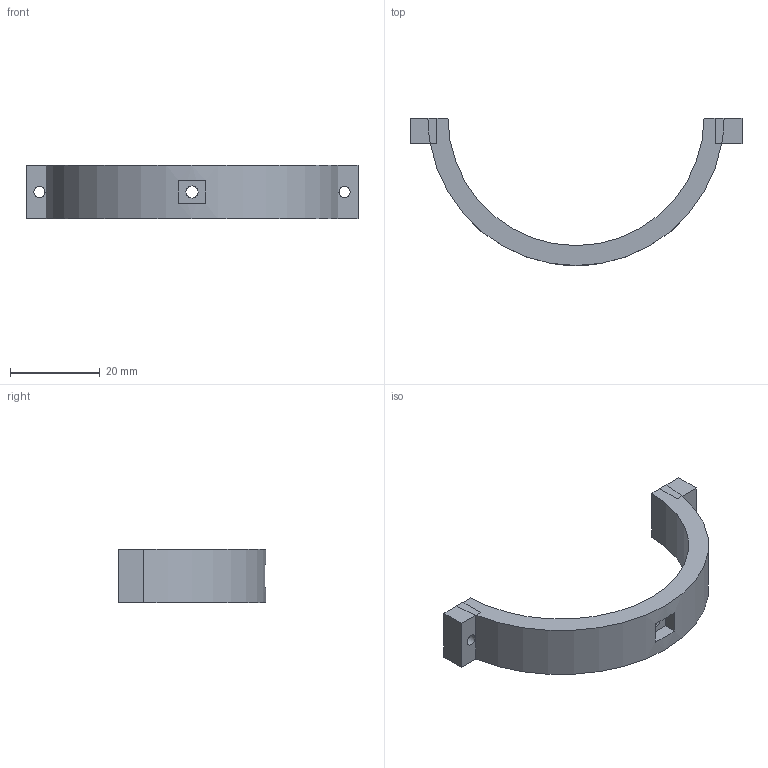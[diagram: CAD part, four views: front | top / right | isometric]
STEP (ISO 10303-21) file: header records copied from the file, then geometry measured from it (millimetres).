
FILE_DESCRIPTION(('Open CASCADE Model'),'2;1');
FILE_NAME('Open CASCADE Shape Model','2026-11-22T21:42:01',('Author'),( 'Open CASCADE'),'Open CASCADE STEP processor 7.9','Open CASCADE 7.9' ,'Unknown');
FILE_SCHEMA(('AUTOMOTIVE_DESIGN { 1 0 10303 214 1 1 1 1 }'));
Length unit declared in the file: millimetre
Products named in the file (1): Open CASCADE STEP translator 7.9 2
Bounding box: 74 x 32.8 x 12 mm (x, y, z)
Volume: 5545.6 mm3; surface area: 3702.3 mm2
Topology: 1 solids, 1 shells, 31 faces, 77 edges, 47 vertices
Faces by surface type: plane 25, cylinder 5, cone 1
Full cylindrical faces by diameter (mm): 2.5 x2, 2.7 x1
Entity records: 2348 total; most frequent: CARTESIAN_POINT 801, DIRECTION 279, ORIENTED_EDGE 154, PCURVE 154, DEFINITIONAL_REPRESENTATION 154, LINE 153, VECTOR 153, EDGE_CURVE 77
